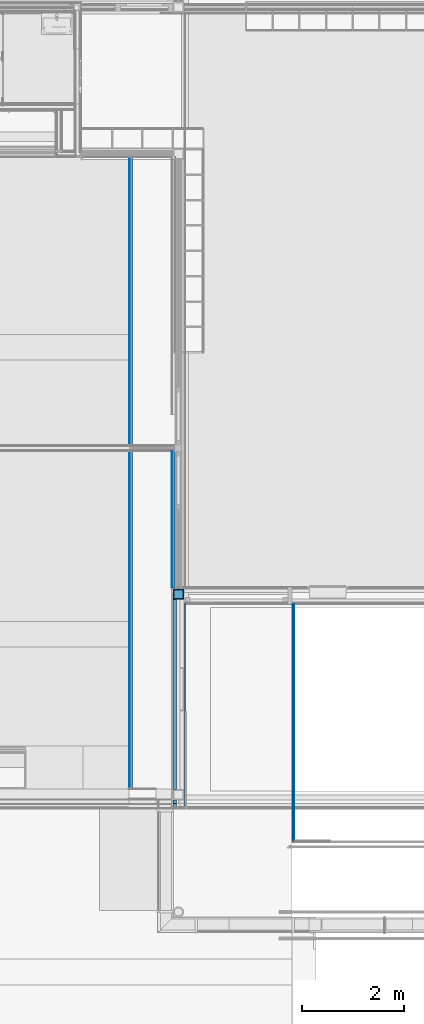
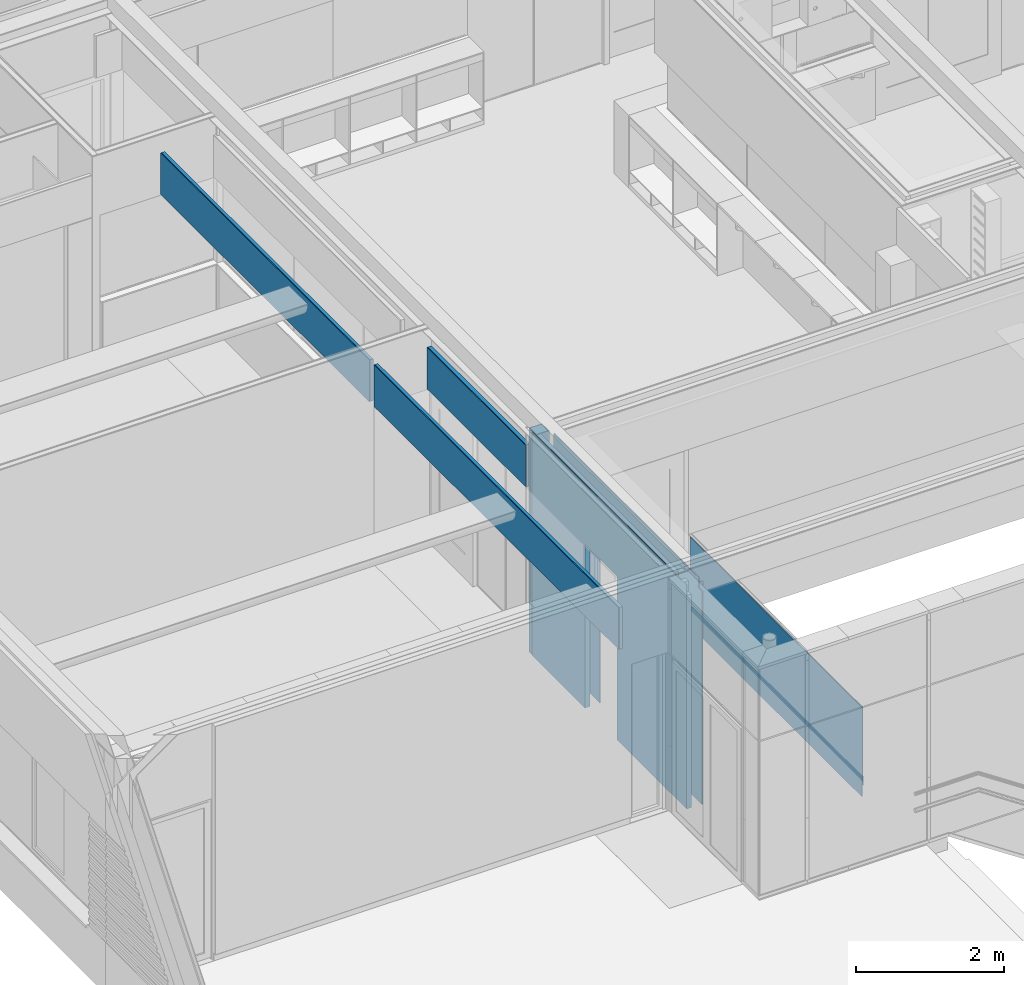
# One storey, part 57 of 137: 12 building element parts, 2 openings, 5 elements without a shape of their own.
"""IFC2X3 building model written with IfcOpenShell, lengths in millimetres."""

from ifc_helpers import new_model, entity, si_unit, converted_unit, derived_unit, money_unit, direction, frame, origin_with_axes, place, context, subcontext, project, spatial, faceted_brep, material, type_object, element, aggregate, save


model = new_model("IFC2X3")

# Units and contexts
model_context = context("Model", 3, precision=0.01, world=origin_with_axes(), true_north=direction((0.0, 1.0)))
body_context = subcontext(model_context, "Body", "Model", "MODEL_VIEW")
ifc_project = project(units=[si_unit("LENGTHUNIT", "METRE", prefix="MILLI"), si_unit("AREAUNIT", "SQUARE_METRE"), si_unit("VOLUMEUNIT", "CUBIC_METRE"), converted_unit("PLANEANGLEUNIT", "DEGREE", entity("IfcPlaneAngleMeasure", 0.0174532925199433), si_unit("PLANEANGLEUNIT", "RADIAN"), dimensions=[0, 0, 0, 0, 0, 0, 0]), money_unit("EUR"), converted_unit("TIMEUNIT", "Year", entity("IfcTimeMeasure", 31556926.0), si_unit("TIMEUNIT", "SECOND"), dimensions=[0, 0, 1, 0, 0, 0, 0]), si_unit("MASSUNIT", "GRAM", prefix="KILO"), si_unit("THERMODYNAMICTEMPERATUREUNIT", "DEGREE_CELSIUS"), si_unit("LUMINOUSINTENSITYUNIT", "LUMEN"), si_unit("ENERGYUNIT", "JOULE", prefix="MEGA"), derived_unit("THERMALCONDUCTANCEUNIT", [(si_unit("POWERUNIT", "WATT"), 1), (si_unit("LENGTHUNIT", "METRE"), -1), (si_unit("THERMODYNAMICTEMPERATUREUNIT", "KELVIN"), -1)]), derived_unit("SPECIFICHEATCAPACITYUNIT", [(si_unit("ENERGYUNIT", "JOULE"), 1), (si_unit("MASSUNIT", "GRAM", prefix="KILO"), -1), (si_unit("THERMODYNAMICTEMPERATUREUNIT", "KELVIN"), -1)]), derived_unit("MASSDENSITYUNIT", [(si_unit("MASSUNIT", "GRAM", prefix="KILO"), 1), (si_unit("VOLUMEUNIT", "CUBIC_METRE"), -1)])], contexts=[model_context])

# Site, building, storey
site_placement = place(None, origin_with_axes())
site = spatial("IfcSite", under=ifc_project, at=site_placement, Name="Site", CompositionType="ELEMENT")
building_placement = place(site_placement, origin_with_axes())
building = spatial("IfcBuilding", under=site, at=building_placement, Name="Naam gebouw", CompositionType="ELEMENT")
storey_placement = place(building_placement, frame((0.0, 0.0, 3960.0), z_axis=(0.0, 0.0, 1.0), x_axis=(1.0, 0.0, 0.0)))
storey = spatial("IfcBuildingStorey", under=building, at=storey_placement, Name="1e verdieping", CompositionType="ELEMENT", Elevation=3960.0)

# Proxy, building element parts
building_element_proxy_type_1 = type_object("IfcBuildingElementProxyType", Name="22 Metal stud 62.5 plafond 63", PredefinedType="NOTDEFINED")
proxy_1_placement = place(storey_placement, frame((7887.500000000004, 6993.999683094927, 2600.0), z_axis=(0.0, 0.0, 1.0), x_axis=(0.0, 1.0, 0.0)))
proxy_1 = element("IfcBuildingElementProxy", 1, at=proxy_1_placement, inside=storey, type_object=building_element_proxy_type_1, Name="_Wand-x")
ifc_material_1 = material(Name="ALG - LICHTE SCHEIDINGSWAND")
building_element_part_1_placement = place(proxy_1_placement, origin_with_axes())
building_element_part_1 = element("IfcBuildingElementPart", 2, at=building_element_part_1_placement, material=ifc_material_1, Name="ALG - LICHTE SCHEIDINGSWAND", context=body_context, shape_type="Brep", body=[
    faceted_brep([(6621.000128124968, -62.5, 11.99999999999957), (6621.000128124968, -62.5, 700.0000000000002), (0.0, -62.5, 700.0000000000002), (0.0002724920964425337, -62.5, 11.99999999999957), (6621.000128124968, -12.50000000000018, 700.0000000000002), (6621.000128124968, -12.50000000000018, 11.99999999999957), (0.0, -12.50000000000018, 700.0000000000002), (0.0002724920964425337, -12.50000000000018, 11.99999999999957)], [[[0, 1, 2, 3]], [[4, 1, 0, 5]], [[1, 4, 6, 2]], [[6, 7, 3, 2]], [[5, 0, 3, 7]], [[4, 5, 7, 6]]]),
    faceted_brep([(6746.000128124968, -12.50000000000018, 700.0000000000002), (6746.000128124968, -62.5, 700.0000000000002), (12393.50012812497, -62.49999999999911, 700.0000000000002), (12393.50012812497, -12.49999999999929, 700.0000000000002), (6746.000128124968, -62.5, 11.99999999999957), (6746.000128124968, -12.50000000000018, 11.99999999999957), (12393.50012812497, -62.49999999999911, 11.99999999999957), (12393.50012812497, -12.49999999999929, 11.99999999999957)], [[[0, 1, 2, 3]], [[4, 1, 0, 5]], [[1, 4, 6, 2]], [[2, 6, 7, 3]], [[5, 0, 3, 7]], [[4, 5, 7, 6]]]),
])
ifc_material_2 = material(Name="Gipsplaat")
building_element_part_2_placement = place(proxy_1_placement, origin_with_axes())
building_element_part_2 = element("IfcBuildingElementPart", 3, at=building_element_part_2_placement, material=ifc_material_2, Name="Gipsplaat", context=body_context, shape_type="Brep", body=[
    faceted_brep([(6621.000128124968, -12.50000000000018, 11.99999999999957), (6621.000128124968, -12.50000000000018, 700.0000000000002), (0.0, -12.50000000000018, 700.0000000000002), (0.0002724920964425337, -12.50000000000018, 11.99999999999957), (6621.000128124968, 0.0, 700.0000000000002), (6621.000128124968, 2.321699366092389e-05, 11.99999999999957), (0.0, 0.0, 700.0000000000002), (0.0002724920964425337, 2.321699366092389e-05, 11.99999999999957)], [[[0, 1, 2, 3]], [[4, 1, 0, 5]], [[1, 4, 6, 2]], [[6, 7, 3, 2]], [[5, 0, 3, 7]], [[4, 5, 7, 6]]]),
    faceted_brep([(6746.000128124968, 0.0, 700.0000000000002), (6746.000128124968, -12.50000000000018, 700.0000000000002), (12393.50012812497, -12.49999999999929, 700.0000000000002), (12393.50012812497, 0.0, 700.0000000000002), (6746.000128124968, -12.50000000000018, 11.99999999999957), (6746.000128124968, 2.321699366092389e-05, 11.99999999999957), (12393.50012812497, -12.49999999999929, 11.99999999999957), (12393.50012812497, 2.321699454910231e-05, 11.99999999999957)], [[[0, 1, 2, 3]], [[4, 1, 0, 5]], [[1, 4, 6, 2]], [[2, 6, 7, 3]], [[5, 0, 3, 7]], [[4, 5, 7, 6]]]),
])
aggregate(proxy_1, [building_element_part_1, building_element_part_2])

# Column, building element parts
column_type = type_object("IfcColumnType", Name="200X200X10 200 x 200", PredefinedType="COLUMN")
column_placement = place(storey_placement, frame((8850.000000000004, 10810.00011055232, -100.0000000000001), z_axis=(0.0, 0.0, 1.0), x_axis=(1.0, 0.0, 0.0)))
column = element("IfcColumn", 4, at=column_placement, inside=storey, type_object=column_type, Name="28_Kolom-x", ObjectType="COLUMN")
ifc_material_3 = material(Name="Beton gewapend C")
building_element_part_3_placement = place(column_placement, origin_with_axes())
building_element_part_3 = element("IfcBuildingElementPart", 5, at=building_element_part_3_placement, material=ifc_material_3, Name="Beton gewapend C", context=body_context, shape_type="Brep", body=[
    faceted_brep([(-89.99999999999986, 89.99999999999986, 3683.000002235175), (89.99999999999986, 89.99999999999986, 3683.000002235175), (89.99999999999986, 89.99999999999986, 0.0), (-89.99999999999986, 89.99999999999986, 0.0), (89.99999999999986, -89.99999999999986, 3683.000002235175), (-89.99999999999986, -89.99999999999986, 3683.000002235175), (89.99999999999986, -89.99999999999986, 0.0), (-89.99999999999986, -89.99999999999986, 0.0)], [[[0, 1, 2, 3]], [[4, 1, 0, 5]], [[1, 4, 6, 2]], [[2, 6, 7, 3]], [[5, 0, 3, 7]], [[4, 5, 7, 6]]]),
    faceted_brep([(89.99999999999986, -89.99999999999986, 3695.000002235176), (89.99999999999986, 89.99999999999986, 3695.000002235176), (89.99999999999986, 89.99999999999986, 3699.999999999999), (89.99999999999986, -89.99999999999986, 3699.999999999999), (-89.99999999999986, 89.99999999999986, 3695.000002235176), (-89.99999999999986, -89.99999999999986, 3695.000002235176), (-89.99999999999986, 89.99999999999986, 3699.999999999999), (-89.99999999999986, -89.99999999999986, 3699.999999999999)], [[[0, 1, 2, 3]], [[4, 1, 0, 5]], [[1, 4, 6, 2]], [[2, 6, 7, 3]], [[5, 0, 3, 7]], [[4, 5, 7, 6]]]),
])
ifc_material_4 = material(Name="Metaal - Staal C")
building_element_part_4_placement = place(column_placement, origin_with_axes())
building_element_part_4 = element("IfcBuildingElementPart", 6, at=building_element_part_4_placement, material=ifc_material_4, Name="Metaal - Staal C", context=body_context, shape_type="Brep", body=[
    faceted_brep([(-99.99999999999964, -99.99999999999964, 0.0), (99.99999999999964, -99.99999999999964, 0.0), (99.99999999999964, -99.99999999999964, 3699.999999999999), (-99.99999999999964, -99.99999999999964, 3699.999999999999), (-99.99999999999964, 99.99999999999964, 0.0), (99.99999999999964, 99.99999999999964, 0.0), (-89.99999999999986, -89.99999999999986, 0.0), (89.99999999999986, -89.99999999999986, 0.0), (89.99999999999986, 89.99999999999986, 0.0), (-89.99999999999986, 89.99999999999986, 0.0), (99.99999999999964, 99.99999999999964, 3699.999999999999), (-99.99999999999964, 99.99999999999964, 3699.999999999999), (-89.99999999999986, -89.99999999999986, 3699.999999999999), (-89.99999999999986, 89.99999999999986, 3699.999999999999), (89.99999999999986, 89.99999999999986, 3699.999999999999), (89.99999999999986, -89.99999999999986, 3699.999999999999)], [[[0, 1, 2, 3]], [[0, 4, 5, 1], [6, 7, 8, 9]], [[1, 5, 10, 2]], [[3, 2, 10, 11], [12, 13, 14, 15]], [[4, 0, 3, 11]], [[5, 4, 11, 10]], [[7, 6, 12, 15]], [[8, 7, 15, 14]], [[9, 8, 14, 13]], [[6, 9, 13, 12]]]),
])
aggregate(column, [building_element_part_3, building_element_part_4])

# Proxy, building element parts
building_element_proxy_type_2 = type_object("IfcBuildingElementProxyType", Name="22 Metal stud 72.5 plafond 73", PredefinedType="NOTDEFINED")
proxy_2_placement = place(storey_placement, frame((8715.002391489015, 10945.00011055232, 2600.0), z_axis=(0.0, 0.0, 1.0), x_axis=(0.0, 1.0, 0.0)))
proxy_2 = element("IfcBuildingElementProxy", 7, at=proxy_2_placement, inside=storey, type_object=building_element_proxy_type_2, Name="_Wand-x")
building_element_part_5_placement = place(proxy_2_placement, origin_with_axes())
building_element_part_5 = element("IfcBuildingElementPart", 8, at=building_element_part_5_placement, material=ifc_material_2, Name="Gipsplaat", context=body_context, shape_type="Brep", body=[
    faceted_brep([(5.557945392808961e-05, -12.49999999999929, 11.99999999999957), (2669.999700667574, -12.49999999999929, 11.99999999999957), (2669.999700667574, -12.49999999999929, 700.0000000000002), (0.0, -12.49999999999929, 700.0000000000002), (2669.999700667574, 0.0, 11.99999999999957), (5.557945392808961e-05, -1.426189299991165e-05, 11.99999999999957), (2669.999700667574, 0.0, 700.0000000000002), (0.0, 0.0, 700.0000000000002)], [[[0, 1, 2, 3]], [[4, 1, 0, 5]], [[1, 4, 6, 2]], [[3, 2, 6, 7]], [[5, 0, 3, 7]], [[4, 5, 7, 6]]]),
])
building_element_part_6_placement = place(proxy_2_placement, origin_with_axes())
building_element_part_6 = element("IfcBuildingElementPart", 9, at=building_element_part_6_placement, material=ifc_material_1, Name="ALG - LICHTE SCHEIDINGSWAND", context=body_context, shape_type="Brep", body=[
    faceted_brep([(2669.999700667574, -72.49999999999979, 700.0000000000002), (2669.999700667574, -12.49999999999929, 700.0000000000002), (0.0, -12.49999999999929, 700.0000000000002), (0.0, -72.49999999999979, 700.0000000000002), (2669.999700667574, -72.49999999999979, 0.0), (2669.999700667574, -12.49999999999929, 0.0), (0.0, -12.49999999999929, 0.0), (0.0, -72.49999999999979, 0.0)], [[[0, 1, 2, 3]], [[0, 4, 5, 1]], [[1, 5, 6, 2]], [[3, 2, 6, 7]], [[4, 0, 3, 7]], [[5, 4, 7, 6]]]),
])
aggregate(proxy_2, [building_element_part_5, building_element_part_6])

# Proxy, openings, building element parts
building_element_proxy_type_3 = type_object("IfcBuildingElementProxyType", Name="22 Metal stud 270 270", PredefinedType="NOTDEFINED")
proxy_3_placement = place(storey_placement, frame((8850.002391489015, 10810.00011055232, -100.0000000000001), z_axis=(0.0, 0.0, 1.0), x_axis=(0.0, -1.0, 0.0)))
proxy_3 = element("IfcBuildingElementProxy", 10, at=proxy_3_placement, inside=storey, type_object=building_element_proxy_type_3, Name="_Wand-x")
opening_1_placement = place(proxy_3_placement, frame((1860.000000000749, 0.0, 100.0000000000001), z_axis=(0.0, 0.0, 1.0), x_axis=(1.0, 0.0, 0.0)))
element("IfcOpeningElement", 11, at=opening_1_placement, cuts=proxy_3, Name="_A.05", context=body_context, shape_type="Brep", body=[
    faceted_brep([(-429.9999999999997, 85.00000000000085, -100.0000000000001), (-429.9999999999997, 85.00000000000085, 2600.0), (-429.9999999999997, 135.9999999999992, 2600.0), (-429.9999999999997, 135.9999999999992, -100.0000000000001), (-429.9999999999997, -135.9999999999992, -100.0000000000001), (-429.9999999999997, -135.9999999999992, 2600.0), (429.9999999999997, 85.00000000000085, 2600.0), (429.9999999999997, 135.9999999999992, 2600.0), (429.9999999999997, -135.9999999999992, 2600.0), (429.9999999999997, 135.9999999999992, -100.0000000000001), (429.9999999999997, 85.00000000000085, -100.0000000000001), (429.9999999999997, -135.9999999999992, -100.0000000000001)], [[[0, 1, 2, 3]], [[1, 0, 4, 5]], [[6, 7, 2, 1, 5, 8]], [[7, 9, 3, 2]], [[0, 3, 9, 10, 11, 4]], [[5, 4, 11, 8]], [[6, 10, 9, 7]], [[10, 6, 8, 11]]]),
])
opening_2_placement = place(proxy_3_placement, frame((4206.000461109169, 0.0, 0.0), z_axis=(0.0, 0.0, 1.0), x_axis=(1.0, 0.0, 0.0)))
element("IfcOpeningElement", 12, at=opening_2_placement, cuts=proxy_3, Name="_Wandeinde-x", context=body_context, shape_type="Brep", body=[
    faceted_brep([(-12.50000000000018, 122.5000000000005, 0.0), (-12.50000000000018, 122.5000000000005, 3700.0), (-12.50000000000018, 134.9999999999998, 3700.0), (-12.50000000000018, 134.9999999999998, 0.0), (-25.00000000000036, 122.5000000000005, 0.0), (-25.00000000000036, 122.5000000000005, 3700.0), (0.0, -134.9999999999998, 3700.0), (0.0, 134.9999999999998, 3700.0), (-25.00000000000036, -134.9999999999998, 3700.0), (0.0, 134.9999999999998, 0.0), (0.0, -134.9999999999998, 0.0), (-25.00000000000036, -134.9999999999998, 0.0)], [[[0, 1, 2, 3]], [[1, 0, 4, 5]], [[6, 7, 2, 1, 5, 8]], [[2, 7, 9, 3]], [[0, 3, 9, 10, 11, 4]], [[8, 5, 4, 11]], [[7, 6, 10, 9]], [[11, 10, 6, 8]]]),
])
building_element_part_7_placement = place(proxy_3_placement, origin_with_axes())
building_element_part_7 = element("IfcBuildingElementPart", 13, at=building_element_part_7_placement, material=ifc_material_2, Name="Gipsplaat", context=body_context, shape_type="Brep", body=[
    faceted_brep([(4105.000110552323, 122.4999999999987, 3525.000000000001), (4193.500461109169, 122.5000000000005, 3525.000000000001), (4193.500461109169, 134.9999999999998, 3525.000000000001), (4105.000110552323, 134.9999999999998, 3525.000000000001), (4105.000110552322, 122.5000000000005, 3700.0), (177.500000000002, 122.5000000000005, 3700.0), (177.500000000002, 122.5000000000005, 3695.000002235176), (4030.000302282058, 122.4999999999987, 3695.000002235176), (4030.000302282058, 122.4999999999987, 3683.000002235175), (177.500000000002, 122.5000000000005, 3683.000002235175), (177.500000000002, 122.5000000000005, 0.0), (1430.000000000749, 122.5000000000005, 0.0), (1430.000000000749, 122.4999999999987, 2700.0), (2290.000000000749, 122.4999999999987, 2700.0), (2290.000000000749, 122.4999999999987, 0.0), (4193.500461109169, 122.4999999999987, 0.0), (4193.500461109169, 134.9999999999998, 0.0), (2290.000000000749, 134.9999999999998, 0.0), (2290.000000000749, 134.9999999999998, 2700.0), (1430.000000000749, 134.9999999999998, 2700.0), (1430.000000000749, 134.9999999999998, 0.0), (177.500000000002, 134.9999999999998, 0.0), (177.500000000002, 134.9999999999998, 3683.000002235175), (4030.000309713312, 134.9999999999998, 3683.000002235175), (4030.000309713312, 134.9999999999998, 3695.000002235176), (177.500000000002, 134.9999999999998, 3695.000002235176), (177.500000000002, 134.9999999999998, 3700.0), (4105.000110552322, 134.9999999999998, 3700.0)], [[[0, 1, 2, 3]], [[1, 0, 4, 5, 6, 7, 8, 9, 10, 11, 12, 13, 14, 15]], [[2, 1, 15, 16]], [[2, 16, 17, 18, 19, 20, 21, 22, 23, 24, 25, 26, 27, 3]], [[3, 27, 4, 0]], [[4, 27, 26, 5]], [[6, 5, 26, 25]], [[25, 24, 7, 6]], [[23, 8, 7, 24]], [[22, 9, 8, 23]], [[22, 21, 10, 9]], [[20, 11, 10, 21]], [[20, 19, 12, 11]], [[19, 18, 13, 12]], [[18, 17, 14, 13]], [[17, 16, 15, 14]]]),
])
building_element_part_8_placement = place(proxy_3_placement, origin_with_axes())
building_element_part_8 = element("IfcBuildingElementPart", 14, at=building_element_part_8_placement, material=ifc_material_1, Name="ALG - LICHTE SCHEIDINGSWAND", context=body_context, shape_type="Brep", body=[
    faceted_brep([(4105.000110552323, -104.9890812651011, 3525.000000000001), (4181.000461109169, -104.9890812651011, 3525.000000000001), (4181.000461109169, -35.00000000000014, 3525.000000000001), (4105.000110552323, -35.00000000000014, 3525.000000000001), (4181.000461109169, -104.9890812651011, 3700.0), (4105.000110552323, -104.9890812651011, 3700.0), (4181.000461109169, -109.9999999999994, 3700.0), (4181.000461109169, -110.0000000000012, 0.0), (4181.000461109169, -35.00000000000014, 0.0), (4030.000110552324, -35.00000000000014, 0.0), (4030.000110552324, -35.00000000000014, 3699.999999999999), (4105.000110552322, -35.00000000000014, 3700.0), (4030.000110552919, -101.0047278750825, 3699.999999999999), (0.0, -101.002332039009, 3700.0), (0.0, -109.9999999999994, 3700.0), (2290.000000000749, -110.0000000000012, 0.0), (0.0, -109.9999999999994, 3695.000002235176), (4030.000164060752, -110.0000000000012, 3695.000002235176), (4030.000164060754, -110.0000000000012, 3683.000002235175), (0.0, -109.9999999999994, 3683.000002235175), (0.0, -109.9999999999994, 0.0), (1430.000000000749, -109.9999999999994, 0.0), (1430.000000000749, -109.9999999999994, 2700.0), (2290.000000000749, -109.9999999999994, 2700.0), (2290.000000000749, -35.00000000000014, 0.0), (3830.000110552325, -35.00000000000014, 0.0), (3830.000110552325, -100.0023914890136, 0.0), (4030.000110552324, -100.0023914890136, 0.0), (4030.000110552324, -100.0023914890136, 3683.000002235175), (4030.000169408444, -101.0047278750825, 3695.000002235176), (0.0, -101.0023320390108, 3695.000002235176), (3830.000110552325, -35.00000000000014, 3683.000002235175), (99.99999999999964, -35.00000000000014, 3683.000002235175), (99.99999999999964, -100.0023914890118, 3683.000002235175), (0.0, -100.0023914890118, 3683.000002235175), (3830.000110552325, -100.0023914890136, 3683.000002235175), (0.0, -100.0023914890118, 0.0), (99.99999999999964, -35.00000000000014, 0.0), (1430.000000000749, -35.00000000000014, 0.0), (99.99999999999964, -100.0023914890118, 0.0), (1430.000000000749, -35.00000000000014, 2700.0), (2290.000000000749, -35.00000000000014, 2700.0)], [[[0, 1, 2, 3]], [[4, 1, 0, 5]], [[1, 4, 6, 7, 8, 2]], [[2, 8, 9, 10, 11, 3]], [[3, 11, 5, 0]], [[4, 5, 11, 10, 12, 13, 14, 6]], [[15, 7, 6, 14, 16, 17, 18, 19, 20, 21, 22, 23]], [[9, 8, 7, 15, 24, 25, 26, 27]], [[12, 10, 9, 27, 28, 18, 17, 29]], [[12, 29, 30, 13]], [[14, 13, 30, 16]], [[29, 17, 16, 30]], [[31, 32, 33, 34, 19, 18, 28, 35]], [[20, 19, 34, 36]], [[37, 38, 21, 20, 36, 39]], [[40, 22, 21, 38]], [[41, 23, 22, 40]], [[24, 15, 23, 41]], [[41, 40, 38, 37, 32, 31, 25, 24]], [[31, 35, 26, 25]], [[28, 27, 26, 35]], [[37, 39, 33, 32]], [[33, 39, 36, 34]]]),
    faceted_brep([(99.99999999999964, -35.00000000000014, 3695.000002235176), (99.99999999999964, -35.00000000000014, 3699.999999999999), (3830.000110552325, -35.00000000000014, 3699.999999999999), (3830.000110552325, -35.00000000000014, 3695.000002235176), (99.99999999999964, -95.00239148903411, 3699.999999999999), (99.99999999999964, -95.00239148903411, 3695.000002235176), (3830.000110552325, -95.00460897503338, 3699.999999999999), (3830.000110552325, -95.00460897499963, 3695.000002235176)], [[[0, 1, 2, 3]], [[4, 1, 0, 5]], [[1, 4, 6, 2]], [[7, 3, 2, 6]], [[5, 0, 3, 7]], [[4, 5, 7, 6]]]),
])
aggregate(proxy_3, [building_element_part_7, building_element_part_8])

# Beam, building element parts
beam_type = type_object("IfcBeamType", Name="34 Glas balustrade binnen 50 x 1800", PredefinedType="BEAM")
beam_placement = place(storey_placement, frame((11075.04558844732, 5930.000025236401, 0.0), z_axis=(0.0, 0.0, 1.0), x_axis=(1.0, -8.761764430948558e-10, 0.0)))
beam = element("IfcBeam", 15, at=beam_placement, inside=storey, type_object=beam_type, Name="_Regenwaterafvoer-x", ObjectType="BEAM")
ifc_material_5 = material(Name="Glas")
building_element_part_9_placement = place(beam_placement, origin_with_axes())
building_element_part_9 = element("IfcBuildingElementPart", 16, at=building_element_part_9_placement, material=ifc_material_5, Name="Glas", context=body_context, shape_type="Brep", body=[
    faceted_brep([(34.99468245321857, 4690.000085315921, 1151.699999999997), (39.18828832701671, 4690.000085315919, 1152.066892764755), (39.9999958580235, 4690.000085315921, 1152.284389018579), (39.9999958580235, 4690.000085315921, 1.665824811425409e-06), (39.9999958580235, 4690.000085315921, -80.22999964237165), (19.99999211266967, 4690.000085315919, -80.22999964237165), (19.99999211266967, 4690.000085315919, 1.665824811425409e-06), (19.99999211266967, 4690.000085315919, 1156.979869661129), (22.91967559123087, 4690.000085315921, 1154.935486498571), (26.73489129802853, 4690.000085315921, 1153.156423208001), (30.80107657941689, 4690.000085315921, 1152.066892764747), (30.02670202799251, 30.02670205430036, 1151.699999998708), (34.22478346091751, 34.22478349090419, 1152.066892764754), (39.9999958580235, 1637.294882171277, 1153.1564232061), (38.29530831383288, 38.29530834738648, 1153.156423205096), (39.9999958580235, 39.99999589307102, 1153.950484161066), (39.9999958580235, 39.99999589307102, 1.665824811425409e-06), (39.9999958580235, 39.99999589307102, -80.22999964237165), (19.99999211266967, 19.99999213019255, -80.22999964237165), (19.99999211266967, 19.99999213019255, 1.665824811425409e-06), (19.99999211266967, 1951.332431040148, 1154.935486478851), (19.99999211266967, 19.99999213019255, 1153.975365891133), (21.75809574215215, 21.75809576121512, 1153.156423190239), (25.82862059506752, 25.82862061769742, 1152.066892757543)], [[[0, 1, 2, 3, 4, 5, 6, 7, 8, 9, 10]], [[1, 0, 11, 12]], [[13, 2, 1, 12, 14]], [[13, 15, 16, 3, 2]], [[17, 4, 3, 16]], [[18, 5, 4, 17]], [[19, 6, 5, 18]], [[20, 7, 6, 19, 21]], [[8, 7, 20]], [[9, 8, 20, 21, 22]], [[10, 9, 22, 23]], [[0, 10, 23, 11]], [[22, 21, 19, 18, 17, 16, 15, 14, 12, 11, 23]], [[15, 13, 14]]]),
])
building_element_part_10_placement = place(beam_placement, origin_with_axes())
building_element_part_10 = element("IfcBuildingElementPart", 17, at=building_element_part_10_placement, material=ifc_material_5, Name="Glas", context=body_context, shape_type="Brep", body=[
    faceted_brep([(14.99999940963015, 14.99999942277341, 0.0), (14.99999940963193, 4690.000085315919, 0.0), (14.99999940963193, 4690.000085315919, -80.22999964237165), (14.99999940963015, 14.99999942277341, -80.22999964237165), (19.99999940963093, 19.9999994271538, 0.0), (19.99999940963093, 4690.000085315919, 0.0), (19.99999940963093, 4690.000085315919, -80.22999964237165), (19.99999940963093, 19.9999994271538, -80.22999964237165)], [[[0, 1, 2, 3]], [[4, 5, 1, 0]], [[2, 1, 5, 6]], [[3, 2, 6, 7]], [[4, 0, 3, 7]], [[7, 6, 5, 4]]]),
])
building_element_part_11_placement = place(beam_placement, origin_with_axes())
building_element_part_11 = element("IfcBuildingElementPart", 18, at=building_element_part_11_placement, material=ifc_material_5, Name="Glas", context=body_context, shape_type="Brep", body=[
    faceted_brep([(39.9999994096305, 39.99999944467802, 0.0), (39.99999940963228, 4690.000085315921, 0.0), (39.99999940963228, 4690.000085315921, -80.22999964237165), (39.9999994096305, 39.99999944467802, -80.22999964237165), (44.9980011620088, 44.99800120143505, 0.0), (44.99800116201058, 4690.000085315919, 0.0), (44.99800116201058, 4690.000085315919, -80.22999964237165), (44.9980011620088, 44.99800120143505, -80.22999964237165)], [[[0, 1, 2, 3]], [[4, 5, 1, 0]], [[2, 1, 5, 6]], [[3, 2, 6, 7]], [[4, 0, 3, 7]], [[7, 6, 5, 4]]]),
])
building_element_part_12_placement = place(beam_placement, origin_with_axes())
building_element_part_12 = element("IfcBuildingElementPart", 19, at=building_element_part_12_placement, material=ifc_material_4, Name="Metaal - Staal C", context=body_context, shape_type="Brep", body=[
    faceted_brep([(54.99800116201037, 54.99800121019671, 0.0), (54.99800116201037, 4690.000085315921, 0.0), (44.99800116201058, 4690.000085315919, 0.0), (44.9980011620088, 44.99800120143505, 0.0), (54.99800116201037, 54.99800121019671, -149.9999999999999), (54.99800116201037, 4690.000085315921, -149.9999999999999), (44.99800116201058, 4690.000085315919, -149.9999999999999), (44.99800116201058, 4690.000085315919, -124.9999993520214), (15.00000000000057, 4690.000085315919, -124.9999993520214), (15.00000000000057, 4690.000085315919, -299.9999999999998), (5.000000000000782, 4690.000085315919, -299.9999999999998), (5.000000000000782, 4690.000085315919, 0.0), (15.00000000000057, 4690.000085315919, 0.0), (14.99999940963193, 4690.000085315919, -80.22999964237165), (15.00000000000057, 4690.000085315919, -84.9999993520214), (44.99800116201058, 4690.000085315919, -84.9999993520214), (44.99800116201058, 4690.000085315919, -80.22999964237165), (15.00000000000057, 4690.000085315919, -114.9999993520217), (44.99800116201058, 4690.000085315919, -114.9999993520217), (44.99800116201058, 4690.000085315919, -94.99999935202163), (15.00000000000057, 4690.000085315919, -94.99999935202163), (44.9980011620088, 44.99800120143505, -80.22999964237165), (44.9980011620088, 44.99800120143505, -84.9999993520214), (14.99999999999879, 15.00000001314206, -84.9999993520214), (14.99999940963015, 14.99999942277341, -80.22999964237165), (14.99999999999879, 15.00000001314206, 0.0), (5.000000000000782, 5.000000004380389, 0.0), (5.000000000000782, 5.000000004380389, -299.9999999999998), (14.99999999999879, 15.00000001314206, -299.9999999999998), (14.99999999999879, 15.00000001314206, -124.9999993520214), (44.9980011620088, 44.99800120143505, -124.9999993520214), (44.9980011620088, 44.99800120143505, -149.9999999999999), (44.9980011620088, 44.99800120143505, -94.99999935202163), (44.9980011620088, 44.99800120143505, -114.9999993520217), (14.99999999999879, 15.00000001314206, -114.9999993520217), (14.99999999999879, 15.00000001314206, -94.99999935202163)], [[[0, 1, 2, 3]], [[4, 5, 1, 0]], [[2, 1, 5, 6, 7, 8, 9, 10, 11, 12, 13, 14, 15, 16], [17, 18, 19, 20]], [[3, 2, 16, 21]], [[4, 0, 3, 21, 22, 23, 24, 25, 26, 27, 28, 29, 30, 31], [32, 33, 34, 35]], [[31, 6, 5, 4]], [[30, 7, 6, 31]], [[29, 8, 7, 30]], [[28, 9, 8, 29]], [[27, 10, 9, 28]], [[26, 11, 10, 27]], [[25, 12, 11, 26]], [[24, 13, 12, 25]], [[23, 14, 13, 24]], [[22, 15, 14, 23]], [[21, 16, 15, 22]], [[33, 18, 17, 34]], [[32, 19, 18, 33]], [[35, 20, 19, 32]], [[34, 17, 20, 35]]]),
])
aggregate(beam, [building_element_part_9, building_element_part_10, building_element_part_11, building_element_part_12])

save(model, "model.ifc")
